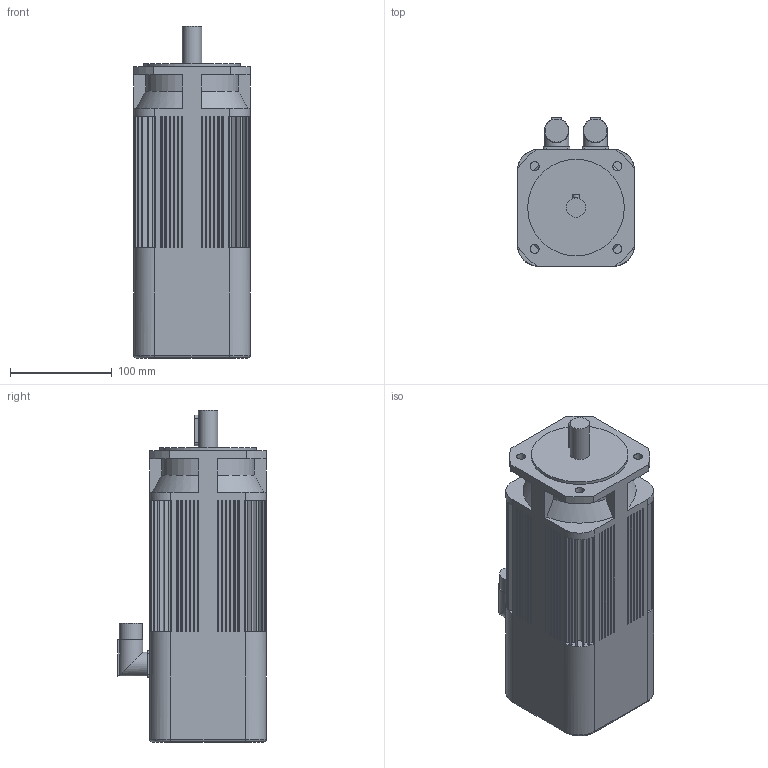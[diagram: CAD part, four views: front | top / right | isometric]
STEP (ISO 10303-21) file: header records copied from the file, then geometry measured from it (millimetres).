
FILE_DESCRIPTION(/* description */ (''),/* implementation_level */ '2;1');
FILE_NAME(/* name */ '\\Lafnas01\disegni\Archivi Lafert\3D\CAD 3D\MODELLI\Assiemi clienti\Serad\Modelli 3D Serad\B63I\Encoder\Enc With Brake\B6304Ixx6BRx2033.ipt.stp',/* time_stamp */ '2015-09-07T10:50:24+02:00',/* author */ ('Pastrello Ylenia'),/* organization */ (''),/* preprocessor_version */ 'ST-DEVELOPER v15.6',/* originating_system */ 'Autodesk Inventor 2015',/* authorisation */ '');
FILE_SCHEMA (('AUTOMOTIVE_DESIGN { 1 0 10303 214 3 1 1 }'));
Length unit declared in the file: millimetre
Products named in the file (1): B6304Ixx6BRx2033
Bounding box: 115 x 146.5 x 326.5 mm (x, y, z)
Volume: 3541839.5 mm3; surface area: 198660.4 mm2
Topology: 1 solids, 1 shells, 445 faces, 1091 edges, 704 vertices
Faces by surface type: plane 351, cylinder 86, cone 4, torus 4
Full cylindrical faces by diameter (mm): 9 x4, 19 x1, 22.7 x2, 24 x2, 95 x1
Entity records: 13008 total; most frequent: CARTESIAN_POINT 2276, DIRECTION 2254, ORIENTED_EDGE 2156, EDGE_CURVE 1078, LINE 774, VECTOR 774, AXIS2_PLACEMENT_3D 740, VERTEX_POINT 702
